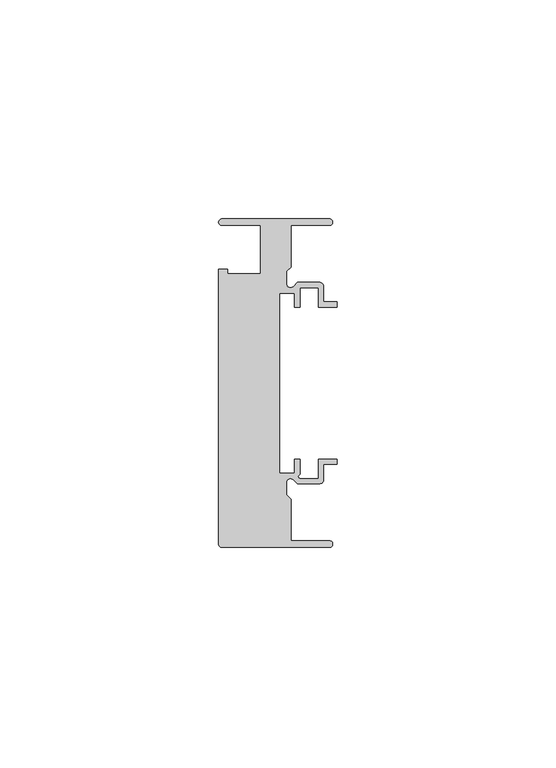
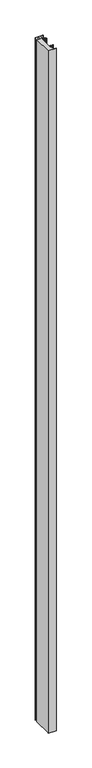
"""IFC4 building model written with IfcOpenShell, lengths in millimetres: member geometry, Прямоугольный импост : 5-AMG-1-Профиль 26Х75 Верх П."""

from ifc_helpers import new_model, si_unit, point, frame, frame_2d, origin, place, context, project, spatial, polyline, circle_curve, trimmed, segment, composite_curve, outline, extrude, source, transform, mapped, element, save


def member_972f2668(model_context):
    return source(origin(), model_context, "Body", "SweptSolid", [
        extrude(outline(composite_curve([segment(trimmed(circle_curve(frame_2d((-1.7, 36.75)), 0.75), [point((-1.7, 37.5))], [point((-1.7, 36.0))], False, "CARTESIAN"), True, "CONTINUOUS"), segment(polyline([(-1.7, 36.0), (-10.5, 36.0), (-10.5, 26.5029437), (-11.5, 25.5029437), (-11.5, 22.6727922)]), True, "CONTINUOUS"), segment(trimmed(circle_curve(frame_2d((-10.6, 22.6727922)), 0.9), [point((-11.5, 22.6727922))], [point((-9.9636039, 22.0363961))], True, "CARTESIAN"), True, "CONTINUOUS"), segment(polyline([(-9.9636039, 22.0363961), (-9.0, 23.0), (-4.0, 23.0)]), True, "CONTINUOUS"), segment(trimmed(circle_curve(frame_2d((-4.0, 22.0)), 1.0), [point((-4.0, 23.0))], [point((-3.0, 22.0))], False, "CARTESIAN"), True, "CONTINUOUS"), segment(polyline([(-3.0, 22.0), (-3.0, 18.55), (0.0, 18.55), (0.0, 17.35), (-4.2, 17.35), (-4.2, 21.8), (-8.45, 21.8), (-8.45, 17.35), (-9.65, 17.35), (-9.65, 20.55), (-13.15, 20.55), (-13.15, -20.55), (-9.65, -20.55), (-9.65, -17.35), (-8.45, -17.35), (-8.45, -20.8470563)]), True, "CONTINUOUS"), segment(trimmed(circle_curve(frame_2d((-8.3343131, -21.3314262)), 0.4979937), [point((-8.45, -20.8470563))], [point((-8.5029437, -21.8))], True, "CARTESIAN"), True, "CONTINUOUS"), segment(polyline([(-8.5029437, -21.8), (-4.2, -21.8), (-4.2, -17.35), (0.0, -17.35), (0.0, -18.55), (-3.0, -18.55), (-3.0, -22.0)]), True, "CONTINUOUS"), segment(trimmed(circle_curve(frame_2d((-4.0, -22.0)), 1.0), [point((-3.0, -22.0))], [point((-4.0, -23.0))], False, "CARTESIAN"), True, "CONTINUOUS"), segment(polyline([(-4.0, -23.0), (-9.0, -23.0), (-9.9636039, -22.0363961)]), True, "CONTINUOUS"), segment(trimmed(circle_curve(frame_2d((-10.6, -22.6727922)), 0.9), [point((-9.9636039, -22.0363961))], [point((-11.5, -22.6727922))], True, "CARTESIAN"), True, "CONTINUOUS"), segment(polyline([(-11.5, -22.6727922), (-11.5, -25.5029437), (-10.5, -26.5029437), (-10.5, -36.0), (-1.7, -36.0)]), True, "CONTINUOUS"), segment(trimmed(circle_curve(frame_2d((-1.7, -36.75)), 0.75), [point((-1.7, -36.0))], [point((-1.7, -37.5))], False, "CARTESIAN"), True, "CONTINUOUS"), segment(polyline([(-1.7, -37.5), (-26.25, -37.5)]), True, "CONTINUOUS"), segment(trimmed(circle_curve(frame_2d((-26.2240507, -36.7244847)), 0.7759493), [point((-26.25, -37.5))], [point((-27.0, -36.7244847))], False, "CARTESIAN"), True, "CONTINUOUS"), segment(polyline([(-27.0, -36.7244847), (-27.0, 26.0), (-24.9359877, 26.0), (-24.9359877, 25.0), (-17.5, 25.0), (-17.5, 36.0), (-26.25, 36.0)]), True, "CONTINUOUS"), segment(trimmed(circle_curve(frame_2d((-26.25, 36.75)), 0.75), [point((-26.25, 36.0))], [point((-26.25, 37.5))], False, "CARTESIAN"), True, "CONTINUOUS"), segment(polyline([(-26.25, 37.5), (-1.7, 37.5)]), True, "CONTINUOUS")], self_intersect=False)), frame((0.0, 0.0, -2338.0), z_axis=(0.0, 0.0, 1.0), x_axis=(1.0, 0.0, 0.0)), (0.0, 0.0, 1.0), 2338.0),
    ])


if __name__ == "__main__":
    model = new_model("IFC4")
    model_context = context("Model", 3, world=origin())
    ifc_project = project(units=[si_unit("LENGTHUNIT", "METRE", prefix="MILLI")], contexts=[model_context])
    site = spatial("IfcSite", under=ifc_project)
    building = spatial("IfcBuilding", under=site)
    placement = place(None, origin())
    member_shape = member_972f2668(model_context)
    element("IfcMember", 1, ObjectType="Прямоугольный импост : 5-AMG-1-Профиль 26Х75 Верх П", at=placement, inside=building, context=model_context, shape_type="MappedRepresentation", body=[
        mapped(member_shape, transform((0.0, 0.0, 0.0), x_axis=(1.0, 0.0, 0.0), y_axis=(0.0, 1.0, 0.0), z_axis=(0.0, 0.0, 1.0))),
    ])
    save(model, "model.ifc")
